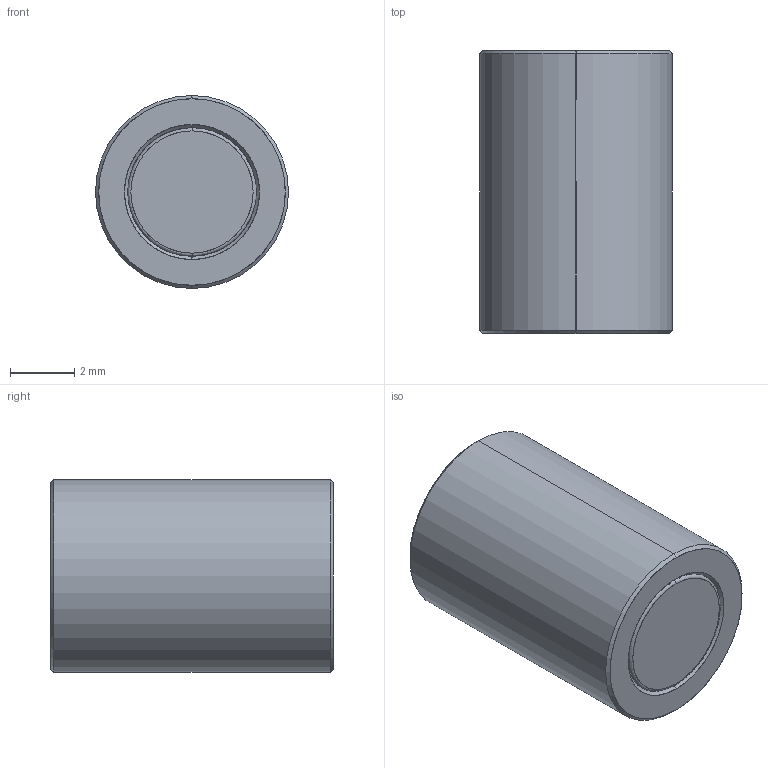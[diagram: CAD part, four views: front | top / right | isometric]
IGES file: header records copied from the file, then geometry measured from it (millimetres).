
Start section: SolidWorks IGES file using analytic representation for surfaces
Global section: file name: D:\Dokumenti\dokumentacija-mehanskih-delov-RLSizdelkov\ORACLE-ASPEN-RMC22-RMC35-\RMA03A3A07-magnetic-actuator.IGS; native system: SolidWorks 2010; preprocessor: SolidWorks 2010; author: cerar; date: 110901.143116; units: millimetre
Bounding box: 6 x 8.8 x 6 mm (x, y, z)
Surface area: 379.2 mm2 (no closed solid volume)
Topology: 0 solids, 0 shells, 36 faces, 440 edges, 440 vertices
Faces by surface type: revolution 22, bspline 14
